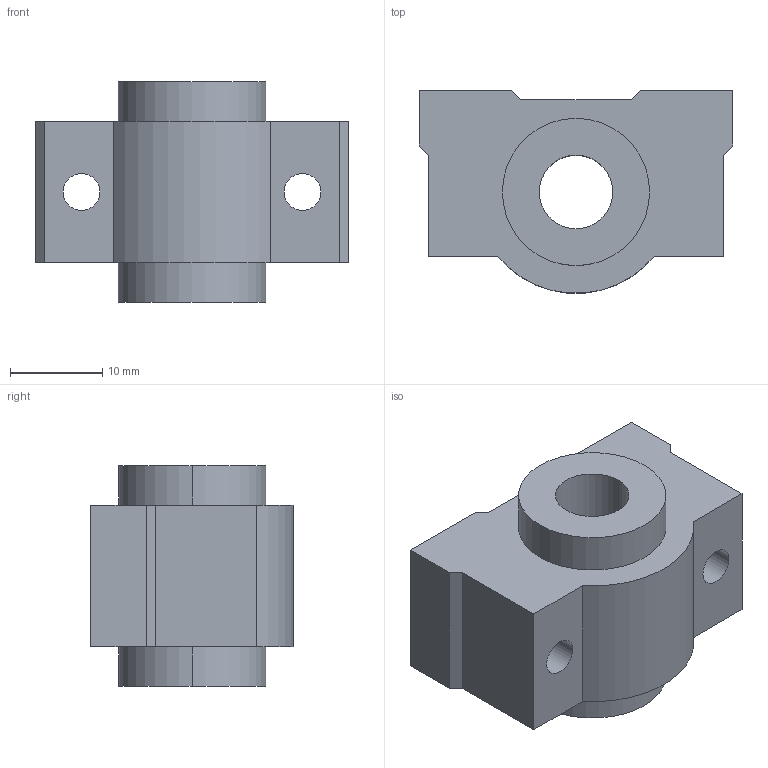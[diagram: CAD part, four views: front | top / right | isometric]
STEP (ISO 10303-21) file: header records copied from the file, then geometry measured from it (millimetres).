
FILE_DESCRIPTION((''),'2;1');
FILE_NAME('C:\Documents and Settings\ｿﾀﾀ蠑ｷ1\ｹﾙﾅﾁ ﾈｭｸ饅\ｺﾎﾇｰﾆﾄﾀﾏ\ﾁｦﾇｰ\SC__VUU\SC8VUUN.stp','2005-06-22T14:21:14',('ｿﾀﾀ蠑ｷ1'),(''),'Autodesk Inventor 9','Autodesk Inventor 9','');
FILE_SCHEMA(('AUTOMOTIVE_DESIGN { 1 0 10303 214 1 1 1 1 }'));
Length unit declared in the file: millimetre
Products named in the file (1): SC__VUUN
Bounding box: 34 x 21.96 x 24 mm (x, y, z)
Volume: 9667.8 mm3; surface area: 4216.9 mm2
Topology: 1 solids, 1 shells, 28 faces, 72 edges, 48 vertices
Faces by surface type: plane 17, cylinder 7, bspline 4
Entity records: 945 total; most frequent: CARTESIAN_POINT 217, DIRECTION 144, ORIENTED_EDGE 144, EDGE_CURVE 72, VECTOR 50, LINE 50, VERTEX_POINT 48, AXIS2_PLACEMENT_3D 47
